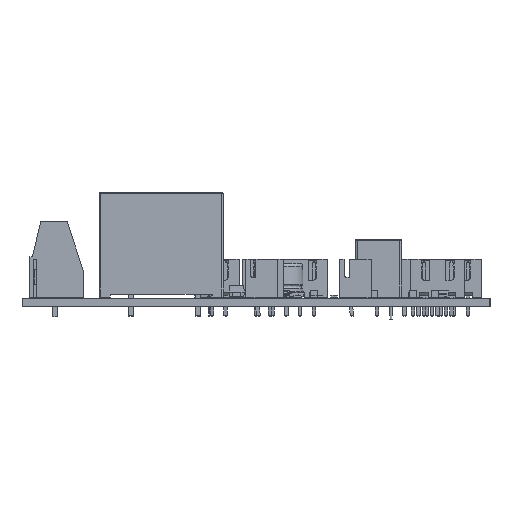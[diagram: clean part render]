
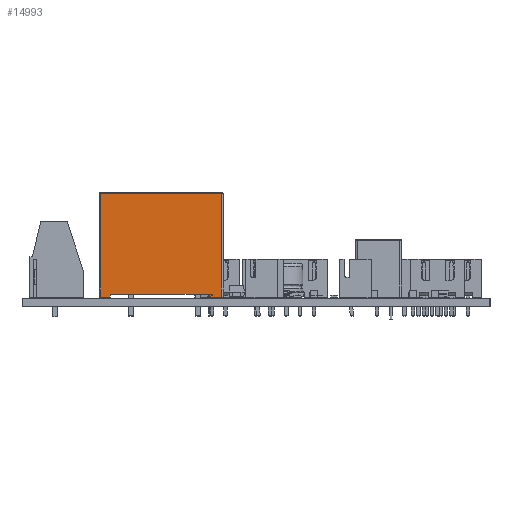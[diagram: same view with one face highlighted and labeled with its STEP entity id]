
A CAD part, left-side view. The second image highlights one B-rep face of the part: STEP entity #14993.
In plain terms, the highlighted planar face has unit normal (-1, 0, 0) as drawn and (1, 0, 0) by its records, which use the part's own axes.
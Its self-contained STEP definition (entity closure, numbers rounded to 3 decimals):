
#14756 = VERTEX_POINT('',#14757);
#14757 = CARTESIAN_POINT('',(8.25,-19.7,18.85));
#14764 = EDGE_CURVE('',#14765,#14756,#14767,.T.);
#14765 = VERTEX_POINT('',#14766);
#14766 = CARTESIAN_POINT('',(8.25,2.3,18.85));
#14767 = LINE('',#14768,#14769);
#14768 = CARTESIAN_POINT('',(8.25,2.3,18.85));
#14769 = VECTOR('',#14770,1.);
#14770 = DIRECTION('',(0.,-1.,0.));
#14993 = ADVANCED_FACE('',(#14994),#15051,.T.);
#14994 = FACE_BOUND('',#14995,.T.);
#14995 = EDGE_LOOP('',(#14996,#15004,#15005,#15013,#15021,#15029,#15037,
    #15045));
#14996 = ORIENTED_EDGE('',*,*,#14997,.T.);
#14997 = EDGE_CURVE('',#14998,#14765,#15000,.T.);
#14998 = VERTEX_POINT('',#14999);
#14999 = CARTESIAN_POINT('',(8.25,2.3,0.1));
#15000 = LINE('',#15001,#15002);
#15001 = CARTESIAN_POINT('',(8.25,2.3,0.1));
#15002 = VECTOR('',#15003,1.);
#15003 = DIRECTION('',(0.,0.,1.));
#15004 = ORIENTED_EDGE('',*,*,#14764,.T.);
#15005 = ORIENTED_EDGE('',*,*,#15006,.F.);
#15006 = EDGE_CURVE('',#15007,#14756,#15009,.T.);
#15007 = VERTEX_POINT('',#15008);
#15008 = CARTESIAN_POINT('',(8.25,-19.7,0.1));
#15009 = LINE('',#15010,#15011);
#15010 = CARTESIAN_POINT('',(8.25,-19.7,0.1));
#15011 = VECTOR('',#15012,1.);
#15012 = DIRECTION('',(0.,0.,1.));
#15013 = ORIENTED_EDGE('',*,*,#15014,.F.);
#15014 = EDGE_CURVE('',#15015,#15007,#15017,.T.);
#15015 = VERTEX_POINT('',#15016);
#15016 = CARTESIAN_POINT('',(8.25,-17.95,0.1));
#15017 = LINE('',#15018,#15019);
#15018 = CARTESIAN_POINT('',(8.25,2.55,0.1));
#15019 = VECTOR('',#15020,1.);
#15020 = DIRECTION('',(0.,-1.,0.));
#15021 = ORIENTED_EDGE('',*,*,#15022,.F.);
#15022 = EDGE_CURVE('',#15023,#15015,#15025,.T.);
#15023 = VERTEX_POINT('',#15024);
#15024 = CARTESIAN_POINT('',(8.25,-17.95,0.6));
#15025 = LINE('',#15026,#15027);
#15026 = CARTESIAN_POINT('',(8.25,-17.95,0.1));
#15027 = VECTOR('',#15028,1.);
#15028 = DIRECTION('',(0.,0.,-1.));
#15029 = ORIENTED_EDGE('',*,*,#15030,.T.);
#15030 = EDGE_CURVE('',#15023,#15031,#15033,.T.);
#15031 = VERTEX_POINT('',#15032);
#15032 = CARTESIAN_POINT('',(8.25,0.55,0.6));
#15033 = LINE('',#15034,#15035);
#15034 = CARTESIAN_POINT('',(8.25,-3.075,0.6));
#15035 = VECTOR('',#15036,1.);
#15036 = DIRECTION('',(0.,1.,0.));
#15037 = ORIENTED_EDGE('',*,*,#15038,.F.);
#15038 = EDGE_CURVE('',#15039,#15031,#15041,.T.);
#15039 = VERTEX_POINT('',#15040);
#15040 = CARTESIAN_POINT('',(8.25,0.55,0.1));
#15041 = LINE('',#15042,#15043);
#15042 = CARTESIAN_POINT('',(8.25,0.55,0.1));
#15043 = VECTOR('',#15044,1.);
#15044 = DIRECTION('',(0.,0.,1.));
#15045 = ORIENTED_EDGE('',*,*,#15046,.F.);
#15046 = EDGE_CURVE('',#14998,#15039,#15047,.T.);
#15047 = LINE('',#15048,#15049);
#15048 = CARTESIAN_POINT('',(8.25,2.55,0.1));
#15049 = VECTOR('',#15050,1.);
#15050 = DIRECTION('',(0.,-1.,0.));
#15051 = PLANE('',#15052);
#15052 = AXIS2_PLACEMENT_3D('',#15053,#15054,#15055);
#15053 = CARTESIAN_POINT('',(8.25,2.55,0.1));
#15054 = DIRECTION('',(1.,0.,0.));
#15055 = DIRECTION('',(0.,-1.,0.));
